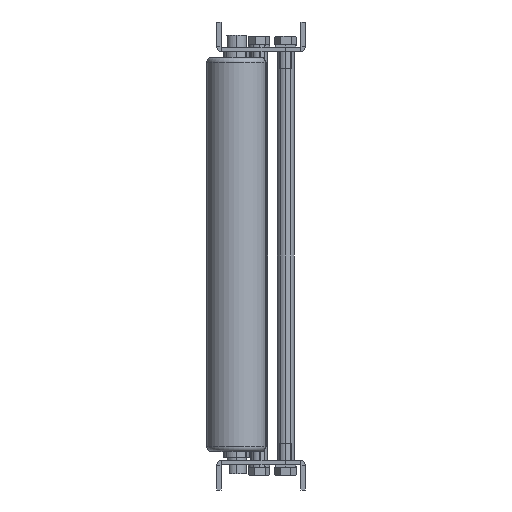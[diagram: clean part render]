
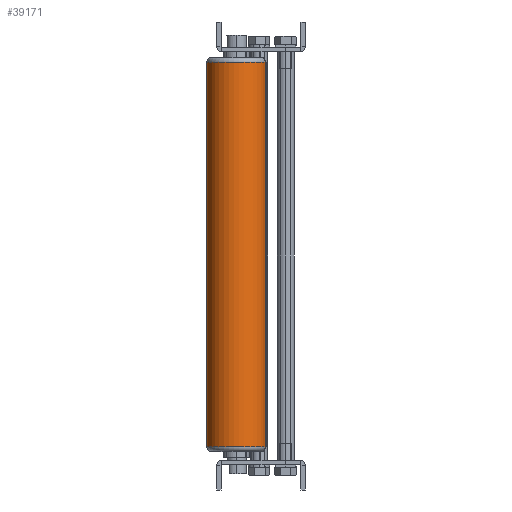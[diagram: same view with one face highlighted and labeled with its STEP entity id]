
A CAD part, left-side view. The second image highlights one B-rep face of the part: STEP entity #39171.
In plain terms, the highlighted cylindrical face has radius 30.25 mm (diameter 60.5 mm), a partial arc.
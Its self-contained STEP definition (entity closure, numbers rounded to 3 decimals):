
#152 = CARTESIAN_POINT ( 'NONE',  ( -1531.702, 65.796, -416. ) ) ;
#351 = CARTESIAN_POINT ( 'NONE',  ( -1515.85, 124.182, -416. ) ) ;
#2447 = VERTEX_POINT ( 'NONE', #10742 ) ;
#4944 = EDGE_CURVE ( 'NONE', #27408, #2447, #32785, .T. ) ;
#6356 = EDGE_CURVE ( 'NONE', #21146, #38886, #22630, .T. ) ;
#7608 = DIRECTION ( 'NONE',  ( -0.262, -0.965, 0. ) ) ;
#8193 = ORIENTED_EDGE ( 'NONE', *, *, #4944, .T. ) ;
#10742 = CARTESIAN_POINT ( 'NONE',  ( -1515.85, 124.182, -26. ) ) ;
#10835 = CARTESIAN_POINT ( 'NONE',  ( -1523.776, 94.989, -26. ) ) ;
#11542 = EDGE_CURVE ( 'NONE', #2447, #21146, #31722, .T. ) ;
#13081 = VECTOR ( 'NONE', #32323, 1000. ) ;
#13441 = DIRECTION ( 'NONE',  ( 0., 0., -1. ) ) ;
#14421 = CARTESIAN_POINT ( 'NONE',  ( -1523.776, 94.989, -416. ) ) ;
#14803 = AXIS2_PLACEMENT_3D ( 'NONE', #10835, #13441, #7608 ) ;
#16361 = AXIS2_PLACEMENT_3D ( 'NONE', #26870, #33114, #18215 ) ;
#17455 = CARTESIAN_POINT ( 'NONE',  ( -1531.702, 65.796, -21. ) ) ;
#18215 = DIRECTION ( 'NONE',  ( 0.262, 0.965, 0. ) ) ;
#21146 = VERTEX_POINT ( 'NONE', #351 ) ;
#22630 = CIRCLE ( 'NONE', #30883, 30.25 ) ;
#23492 = DIRECTION ( 'NONE',  ( -0.262, -0.965, 0. ) ) ;
#23674 = FACE_OUTER_BOUND ( 'NONE', #33311, .T. ) ;
#24465 = LINE ( 'NONE', #17455, #26429 ) ;
#25717 = ORIENTED_EDGE ( 'NONE', *, *, #6356, .T. ) ;
#26429 = VECTOR ( 'NONE', #38944, 1000. ) ;
#26870 = CARTESIAN_POINT ( 'NONE',  ( -1523.776, 94.989, -21. ) ) ;
#27408 = VERTEX_POINT ( 'NONE', #30975 ) ;
#29140 = EDGE_CURVE ( 'NONE', #27408, #38886, #24465, .T. ) ;
#29751 = ORIENTED_EDGE ( 'NONE', *, *, #11542, .T. ) ;
#30883 = AXIS2_PLACEMENT_3D ( 'NONE', #14421, #39341, #23492 ) ;
#30975 = CARTESIAN_POINT ( 'NONE',  ( -1531.702, 65.796, -26. ) ) ;
#31722 = LINE ( 'NONE', #37931, #13081 ) ;
#32323 = DIRECTION ( 'NONE',  ( 0., 0., -1. ) ) ;
#32785 = CIRCLE ( 'NONE', #14803, 30.25 ) ;
#33114 = DIRECTION ( 'NONE',  ( 0., 0., -1. ) ) ;
#33213 = ORIENTED_EDGE ( 'NONE', *, *, #29140, .F. ) ;
#33311 = EDGE_LOOP ( 'NONE', ( #33213, #8193, #29751, #25717 ) ) ;
#35922 = CYLINDRICAL_SURFACE ( 'NONE', #16361, 30.25 ) ;
#37931 = CARTESIAN_POINT ( 'NONE',  ( -1515.85, 124.182, -21. ) ) ;
#38886 = VERTEX_POINT ( 'NONE', #152 ) ;
#38944 = DIRECTION ( 'NONE',  ( 0., 0., -1. ) ) ;
#39171 = ADVANCED_FACE ( 'NONE', ( #23674 ), #35922, .T. ) ;
#39341 = DIRECTION ( 'NONE',  ( 0., 0., 1. ) ) ;
